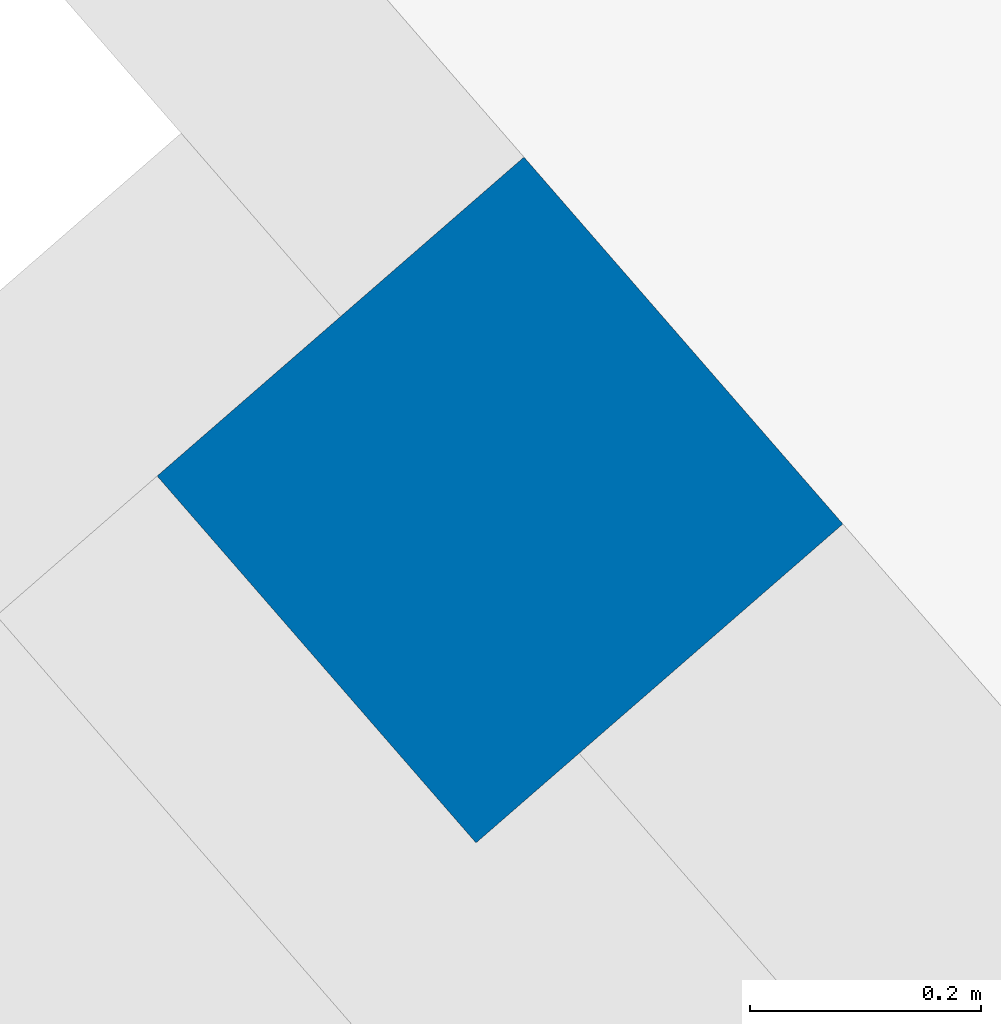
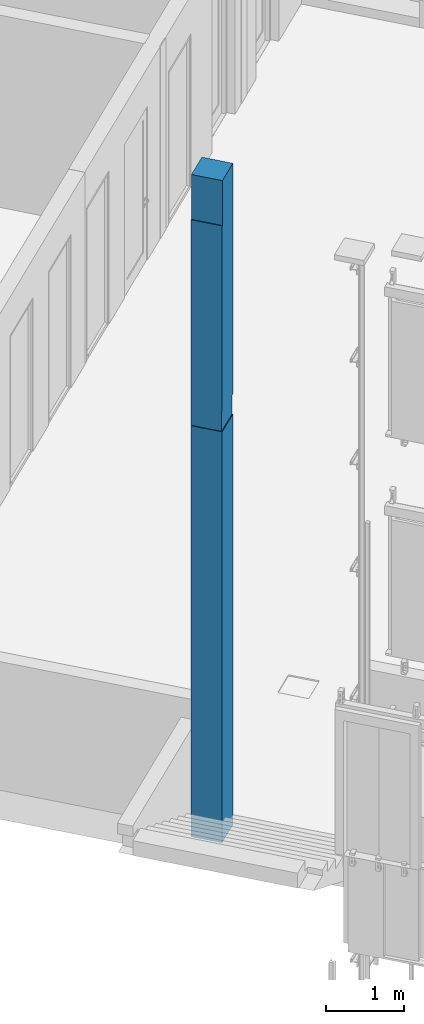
# One storey, part 17 of 124: 1 column.
"""IFC2X3 building model written with IfcOpenShell, lengths in millimetres."""

from ifc_helpers import new_model, entity, si_unit, converted_unit, derived_unit, money_unit, direction, frame, origin_with_axes, place, context, subcontext, project, spatial, faceted_brep, material, material_list, type_object, element, save


model = new_model("IFC2X3")

# Units and contexts
model_context = context("Model", 3, precision=1e-05, world=origin_with_axes(), true_north=direction((0.0, 1.0)))
body_context = subcontext(model_context, "Body", "Model", "MODEL_VIEW")
ifc_project = project(units=[si_unit("LENGTHUNIT", "METRE", prefix="MILLI"), si_unit("AREAUNIT", "SQUARE_METRE"), si_unit("VOLUMEUNIT", "CUBIC_METRE"), converted_unit("PLANEANGLEUNIT", "DEGREE", entity("IfcPlaneAngleMeasure", 0.0174532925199), si_unit("PLANEANGLEUNIT", "RADIAN"), dimensions=[0, 0, 0, 0, 0, 0, 0]), si_unit("SOLIDANGLEUNIT", "STERADIAN"), money_unit("EUR"), converted_unit("TIMEUNIT", "Year", entity("IfcTimeMeasure", 31556926.0), si_unit("TIMEUNIT", "SECOND"), dimensions=[0, 0, 1, 0, 0, 0, 0]), si_unit("MASSUNIT", "GRAM", prefix="KILO"), si_unit("THERMODYNAMICTEMPERATUREUNIT", "DEGREE_CELSIUS"), si_unit("LUMINOUSINTENSITYUNIT", "LUMEN"), si_unit("ENERGYUNIT", "JOULE", prefix="MEGA"), derived_unit("THERMALCONDUCTANCEUNIT", [(si_unit("POWERUNIT", "WATT"), 1), (si_unit("LENGTHUNIT", "METRE"), -1), (si_unit("THERMODYNAMICTEMPERATUREUNIT", "KELVIN"), -1)]), derived_unit("SPECIFICHEATCAPACITYUNIT", [(si_unit("ENERGYUNIT", "JOULE"), 1), (si_unit("MASSUNIT", "GRAM", prefix="KILO"), -1), (si_unit("THERMODYNAMICTEMPERATUREUNIT", "KELVIN"), -1)]), derived_unit("MASSDENSITYUNIT", [(si_unit("MASSUNIT", "GRAM", prefix="KILO"), 1), (si_unit("VOLUMEUNIT", "CUBIC_METRE"), -1)])], contexts=[model_context])

# Site, building, storey
site_placement = place(None, origin_with_axes())
site = spatial("IfcSite", under=ifc_project, at=site_placement, Name="Site", CompositionType="ELEMENT")
building_placement = place(site_placement, origin_with_axes())
building = spatial("IfcBuilding", under=site, at=building_placement, Name="Building", CompositionType="ELEMENT")
storey_placement = place(building_placement, frame((0.0, 0.0, -1615.0), z_axis=(0.0, 0.0, 1.0), x_axis=(1.0, 0.0, 0.0)))
storey = spatial("IfcBuildingStorey", under=building, at=storey_placement, Name="0  korrus", CompositionType="ELEMENT", Elevation=-1615.0)

# Column
ifc_material_1 = material(Name="Betoon - Konstuktsioon")
ifc_material_2 = material(Name="Krohv - Lubjakivi")
ifc_material_list = material_list([ifc_material_1, ifc_material_2])
column_type = type_object("IfcColumnType", Name="Post", PredefinedType="NOTDEFINED")
column_placement = place(storey_placement, frame((145805.457175, 81304.3641637, 0.0), z_axis=(0.0, 0.0, 1.0), x_axis=(0.656059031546, -0.754709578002, 0.0)))
element("IfcColumn", 1, at=column_placement, inside=storey, type_object=column_type, material=ifc_material_list, Name="Betoon - Konstuktsioon", ObjectType="Betoon - Konstuktsioon 400 x 400", context=body_context, shape_type="Brep", body=[
    faceted_brep([(-200.0, -200.0, 0.0), (200.0, -200.0, 0.0), (200.0, -200.0, 10330.0), (-200.0, -200.0, 10330.0), (-200.0, 200.0, 0.0), (200.0, 200.0, 0.0), (200.0, 200.0, 10330.0), (-200.0, 200.0, 10330.0)], [[[0, 1, 2, 3]], [[0, 4, 5, 1]], [[1, 5, 6, 2]], [[3, 2, 6, 7]], [[4, 0, 3, 7]], [[5, 4, 7, 6]]]),
    faceted_brep([(-210.00002153, -200.000000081, 10330.0), (-200.0, -200.000000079, 10330.0), (-200.0, 200.0, 10330.0), (200.0, 200.0, 10330.0), (200.0, -200.0, 10330.0), (209.99997847, -199.999999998, 10330.0), (210.0, 210.0, 10330.0), (-210.0, 210.0, 10330.0), (-200.0, -200.000000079, 9630.0), (-210.00002153, -200.000000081, 9630.0), (-200.0, -200.0, 6730.0), (-200.000042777, 200.000006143, 6730.0), (200.0, 200.0, 6730.0), (200.0, -200.0, 9630.0), (200.0, -200.0, 6730.0), (209.99997847, -199.999999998, 9630.0), (209.999978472, -210.0, 9630.0), (210.0, -210.0, 6730.0), (210.0, 210.0, 6730.0), (-200.000042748, 210.0, 6730.0), (-210.0, 210.0, 6730.0), (-210.0, -200.0, 6730.0), (-210.0, -200.0, 6415.0), (-210.0, 210.0, 6415.0), (-210.0, 210.0, 0.0), (-210.0, -210.0, 0.0), (-210.000021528, -210.0, 9630.0), (-200.000000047, -210.0, 6730.0), (210.0, -210.0, 0.0), (210.0, -210.0, 6415.0), (-200.000000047, -210.0, 6415.0), (-200.0, -200.0, 6415.0), (-200.000042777, 200.000006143, 6415.0), (-200.000042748, 210.0, 6415.0), (210.0, 210.0, 6415.0), (210.0, 210.0, 0.0), (200.0, 200.0, 0.0), (-200.0, 200.0, 0.0), (-200.0, -200.0, 0.0), (200.0, -200.0, 0.0), (200.0, 200.0, 6415.0), (200.0, -200.0, 6415.0)], [[[0, 1, 2, 3, 4, 5, 6, 7]], [[8, 1, 0, 9]], [[1, 8, 10, 11, 2]], [[2, 11, 12, 3]], [[13, 4, 3, 12, 14]], [[15, 5, 4, 13]], [[15, 16, 17, 18, 6, 5]], [[6, 18, 19, 20, 7]], [[9, 0, 7, 20, 21, 22, 23, 24, 25, 26]], [[16, 15, 13, 8, 9, 26]], [[8, 13, 14, 10]], [[20, 19, 11, 10, 21]], [[12, 11, 19, 18, 17, 27, 10, 14]], [[16, 26, 25, 28, 29, 30, 27, 17]], [[10, 31, 22, 21]], [[31, 32, 33, 23, 22]], [[23, 33, 34, 35, 24]], [[35, 28, 25, 24], [36, 37, 38, 39]], [[10, 27, 30, 31]], [[35, 34, 29, 28]], [[34, 33, 32, 40, 41, 31, 30, 29]], [[37, 32, 31, 38]], [[36, 40, 32, 37]], [[38, 31, 41, 39]], [[39, 41, 40, 36]]]),
])

save(model, "model.ifc")
